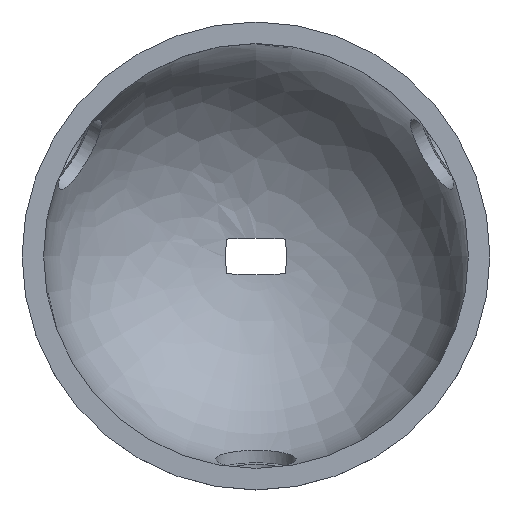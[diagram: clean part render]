
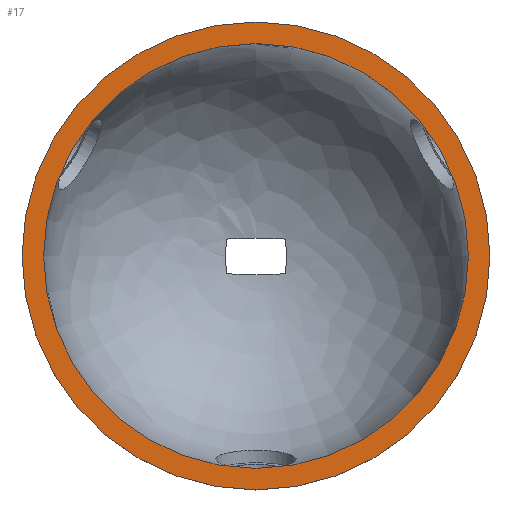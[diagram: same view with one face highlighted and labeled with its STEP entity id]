
A CAD part, top view. The second image highlights one B-rep face of the part: STEP entity #17.
In plain terms, the highlighted planar face has unit normal (0, 0, 1).
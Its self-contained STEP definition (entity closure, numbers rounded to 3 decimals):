
#17 = ADVANCED_FACE('',(#18,#54),#31,.T.);
#18 = FACE_BOUND('',#19,.F.);
#19 = EDGE_LOOP('',(#20));
#20 = ORIENTED_EDGE('',*,*,#21,.T.);
#21 = EDGE_CURVE('',#22,#22,#24,.T.);
#22 = VERTEX_POINT('',#23);
#23 = CARTESIAN_POINT('',(29.575,0.,0.));
#24 = SURFACE_CURVE('',#25,(#30,#42),.PCURVE_S1.);
#25 = CIRCLE('',#26,29.575);
#26 = AXIS2_PLACEMENT_3D('',#27,#28,#29);
#27 = CARTESIAN_POINT('',(0.,0.,0.));
#28 = DIRECTION('',(0.,0.,1.));
#29 = DIRECTION('',(1.,0.,-0.));
#30 = PCURVE('',#31,#36);
#31 = PLANE('',#32);
#32 = AXIS2_PLACEMENT_3D('',#33,#34,#35);
#33 = CARTESIAN_POINT('',(0.,0.,0.));
#34 = DIRECTION('',(0.,0.,1.));
#35 = DIRECTION('',(1.,0.,-0.));
#36 = DEFINITIONAL_REPRESENTATION('',(#37),#41);
#37 = CIRCLE('',#38,29.575);
#38 = AXIS2_PLACEMENT_2D('',#39,#40);
#39 = CARTESIAN_POINT('',(0.,0.));
#40 = DIRECTION('',(1.,-0.));
#41 = ( GEOMETRIC_REPRESENTATION_CONTEXT(2) 
PARAMETRIC_REPRESENTATION_CONTEXT() REPRESENTATION_CONTEXT('2D SPACE',''
  ) );
#42 = PCURVE('',#43,#48);
#43 = CYLINDRICAL_SURFACE('',#44,29.575);
#44 = AXIS2_PLACEMENT_3D('',#45,#46,#47);
#45 = CARTESIAN_POINT('',(0.,0.,-4.));
#46 = DIRECTION('',(0.,0.,1.));
#47 = DIRECTION('',(1.,0.,-0.));
#48 = DEFINITIONAL_REPRESENTATION('',(#49),#53);
#49 = LINE('',#50,#51);
#50 = CARTESIAN_POINT('',(0.,4.));
#51 = VECTOR('',#52,1.);
#52 = DIRECTION('',(1.,0.));
#53 = ( GEOMETRIC_REPRESENTATION_CONTEXT(2) 
PARAMETRIC_REPRESENTATION_CONTEXT() REPRESENTATION_CONTEXT('2D SPACE',''
  ) );
#54 = FACE_BOUND('',#55,.F.);
#55 = EDGE_LOOP('',(#56));
#56 = ORIENTED_EDGE('',*,*,#57,.F.);
#57 = EDGE_CURVE('',#58,#58,#60,.T.);
#58 = VERTEX_POINT('',#59);
#59 = CARTESIAN_POINT('',(32.575,0.,0.));
#60 = SURFACE_CURVE('',#61,(#66,#73),.PCURVE_S1.);
#61 = CIRCLE('',#62,32.575);
#62 = AXIS2_PLACEMENT_3D('',#63,#64,#65);
#63 = CARTESIAN_POINT('',(0.,0.,0.));
#64 = DIRECTION('',(0.,0.,1.));
#65 = DIRECTION('',(1.,0.,-0.));
#66 = PCURVE('',#31,#67);
#67 = DEFINITIONAL_REPRESENTATION('',(#68),#72);
#68 = CIRCLE('',#69,32.575);
#69 = AXIS2_PLACEMENT_2D('',#70,#71);
#70 = CARTESIAN_POINT('',(0.,0.));
#71 = DIRECTION('',(1.,-0.));
#72 = ( GEOMETRIC_REPRESENTATION_CONTEXT(2) 
PARAMETRIC_REPRESENTATION_CONTEXT() REPRESENTATION_CONTEXT('2D SPACE',''
  ) );
#73 = PCURVE('',#74,#79);
#74 = CYLINDRICAL_SURFACE('',#75,32.575);
#75 = AXIS2_PLACEMENT_3D('',#76,#77,#78);
#76 = CARTESIAN_POINT('',(0.,0.,0.));
#77 = DIRECTION('',(-0.,-0.,-1.));
#78 = DIRECTION('',(1.,0.,0.));
#79 = DEFINITIONAL_REPRESENTATION('',(#80),#84);
#80 = LINE('',#81,#82);
#81 = CARTESIAN_POINT('',(-0.,0.));
#82 = VECTOR('',#83,1.);
#83 = DIRECTION('',(-1.,0.));
#84 = ( GEOMETRIC_REPRESENTATION_CONTEXT(2) 
PARAMETRIC_REPRESENTATION_CONTEXT() REPRESENTATION_CONTEXT('2D SPACE',''
  ) );
